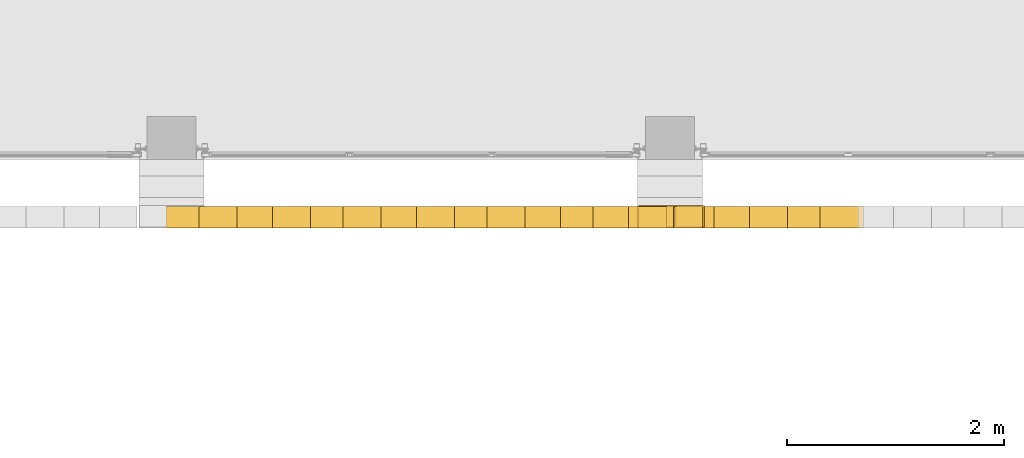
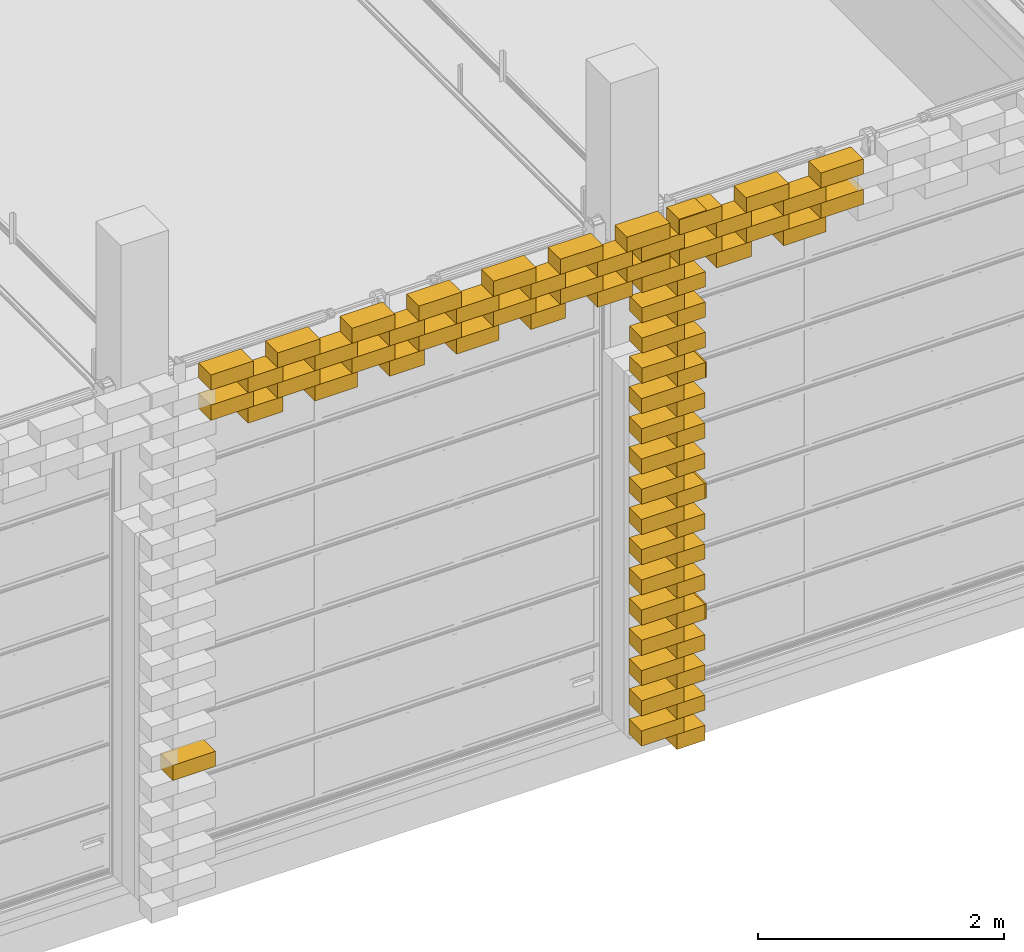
# One storey, part 53 of 62: 74 railings.
"""IFC2X3 building model written with IfcOpenShell, lengths in millimetres."""

from ifc_helpers import new_model, entity, si_unit, converted_unit, derived_unit, money_unit, direction, frame, origin_with_axes, place, context, subcontext, project, spatial, polyline, outline, extrude, material, type_object, element, save


model = new_model("IFC2X3")

# Units and contexts
model_context = context("Model", 3, precision=0.01, world=origin_with_axes(), true_north=direction((0.0, 1.0)))
body_context = subcontext(model_context, "Body", "Model", "MODEL_VIEW")
ifc_project = project(units=[si_unit("LENGTHUNIT", "METRE", prefix="MILLI"), si_unit("AREAUNIT", "SQUARE_METRE"), si_unit("VOLUMEUNIT", "CUBIC_METRE"), converted_unit("PLANEANGLEUNIT", "DEGREE", entity("IfcPlaneAngleMeasure", 0.0174532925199), si_unit("PLANEANGLEUNIT", "RADIAN"), dimensions=[0, 0, 0, 0, 0, 0, 0]), si_unit("SOLIDANGLEUNIT", "STERADIAN"), money_unit("EUR"), converted_unit("TIMEUNIT", "Year", entity("IfcTimeMeasure", 31556926.0), si_unit("TIMEUNIT", "SECOND"), dimensions=[0, 0, 1, 0, 0, 0, 0]), si_unit("MASSUNIT", "GRAM", prefix="KILO"), si_unit("THERMODYNAMICTEMPERATUREUNIT", "DEGREE_CELSIUS"), si_unit("LUMINOUSINTENSITYUNIT", "LUMEN"), si_unit("ENERGYUNIT", "JOULE", prefix="MEGA"), derived_unit("THERMALCONDUCTANCEUNIT", [(si_unit("POWERUNIT", "WATT"), 1), (si_unit("LENGTHUNIT", "METRE"), -1), (si_unit("THERMODYNAMICTEMPERATUREUNIT", "KELVIN"), -1)]), derived_unit("SPECIFICHEATCAPACITYUNIT", [(si_unit("ENERGYUNIT", "JOULE"), 1), (si_unit("MASSUNIT", "GRAM", prefix="KILO"), -1), (si_unit("THERMODYNAMICTEMPERATUREUNIT", "KELVIN"), -1)]), derived_unit("MASSDENSITYUNIT", [(si_unit("MASSUNIT", "GRAM", prefix="KILO"), 1), (si_unit("VOLUMEUNIT", "CUBIC_METRE"), -1)])], contexts=[model_context])

# Site, building, storey
site_placement = place(None, origin_with_axes())
site = spatial("IfcSite", under=ifc_project, at=site_placement, Name="KIRDE 14, ELVA", CompositionType="ELEMENT")
building_placement = place(site_placement, origin_with_axes())
building = spatial("IfcBuilding", under=site, at=building_placement, Name="PPA ja Päästeameti ühishoone", CompositionType="ELEMENT")
storey_placement = place(building_placement, origin_with_axes())
storey = spatial("IfcBuildingStorey", under=building, at=storey_placement, Name="Esimene korrus", CompositionType="ELEMENT", Elevation=0.0)

# Railings
ifc_material = material(Name="Air Space")
railing_type = type_object("IfcRailingType", Name="Air Space 200", PredefinedType="NOTDEFINED")
for number, where, z_axis, x_axis in (
    (1, (24233.5902005, -431.000102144, 500.0), (0.0, 0.0, 1.0), (1.0, -3.55466631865e-09, 0.0)),
    (2, (24233.5902005, -431.000102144, 800.0), (0.0, 0.0, 1.0), (1.0, -3.55466631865e-09, 0.0)),
):
    element("IfcRailing", number, at=place(storey_placement, frame(where, z_axis=z_axis, x_axis=x_axis)), inside=storey, type_object=railing_type, material=ifc_material, Name="plokk", PredefinedType="NOTDEFINED", context=body_context, shape_type="SweptSolid", body=[
        extrude(outline(polyline([(0.0, -200.0), (261.999999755, -200.0), (261.999999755, 0.0), (0.0, 0.0), (0.0, -200.0)])), origin_with_axes(), (0.0, 0.0, 1.0), 150.0),
    ])
railing_1_placement = place(storey_placement, frame((24250.1727361, -431.000103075, 1100.0), z_axis=(0.0, 0.0, 1.0), x_axis=(1.0, 3.55466631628e-09, 0.0)))
element("IfcRailing", 3, at=railing_1_placement, inside=storey, type_object=railing_type, material=ifc_material, Name="plokk", PredefinedType="NOTDEFINED", context=body_context, shape_type="SweptSolid", body=[
    extrude(outline(polyline([(0.0, -200.0), (261.99999993, -200.0), (261.99999993, 0.0), (0.0, 0.0), (0.0, -200.0)])), origin_with_axes(), (0.0, 0.0, 1.0), 150.0),
])
for number, where, z_axis, x_axis in (
    (4, (24233.5902005, -431.000102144, 2300.0), (0.0, 0.0, 1.0), (1.0, -3.55466631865e-09, 0.0)),
    (5, (24233.5902005, -431.000102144, 2600.0), (0.0, 0.0, 1.0), (1.0, -3.55466631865e-09, 0.0)),
    (6, (24233.5902005, -431.000102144, 2900.0), (0.0, 0.0, 1.0), (1.0, -3.55466631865e-09, 0.0)),
):
    element("IfcRailing", number, at=place(storey_placement, frame(where, z_axis=z_axis, x_axis=x_axis)), inside=storey, type_object=railing_type, material=ifc_material, Name="plokk", PredefinedType="NOTDEFINED", context=body_context, shape_type="SweptSolid", body=[
        extrude(outline(polyline([(0.0, -200.0), (261.999999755, -200.0), (261.999999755, 0.0), (0.0, 0.0), (0.0, -200.0)])), origin_with_axes(), (0.0, 0.0, 1.0), 150.0),
    ])
railing_2_placement = place(storey_placement, frame((21811.1208059, -431.000097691, 5000.0), z_axis=(0.0, 0.0, 1.0), x_axis=(1.0, -2.32830643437e-09, 0.0)))
element("IfcRailing", 7, at=railing_2_placement, inside=storey, type_object=railing_type, material=ifc_material, Name="plokk", PredefinedType="NOTDEFINED", context=body_context, shape_type="SweptSolid", body=[
    extrude(outline(polyline([(0.0, -200.0), (400.000000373, -200.0), (400.000000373, 0.0), (0.0, 0.0), (0.0, -200.0)])), origin_with_axes(), (0.0, 0.0, 1.0), 150.0),
])
railing_3_placement = place(storey_placement, frame((20206.7115344, -431.000101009, 4850.0), z_axis=(0.0, 0.0, 1.0), x_axis=(1.0, 0.0, 0.0)))
element("IfcRailing", 8, at=railing_3_placement, inside=storey, type_object=railing_type, material=ifc_material, Name="plokk", PredefinedType="NOTDEFINED", context=body_context, shape_type="SweptSolid", body=[
    extrude(outline(polyline([(0.0, -200.0), (327.204635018, -200.0), (327.204635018, 0.0), (0.0, 0.0), (0.0, -200.0)])), origin_with_axes(), (0.0, 0.0, 1.0), 150.0),
])
railing_4_placement = place(storey_placement, frame((21183.9161709, -431.000099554, 4700.0), z_axis=(0.0, 0.0, 1.0), x_axis=(1.0, -2.32830643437e-09, 0.0)))
element("IfcRailing", 9, at=railing_4_placement, inside=storey, type_object=railing_type, material=ifc_material, Name="plokk", PredefinedType="NOTDEFINED", context=body_context, shape_type="SweptSolid", body=[
    extrude(outline(polyline([(0.0, -200.0), (400.000000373, -200.0), (400.000000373, 0.0), (0.0, 0.0), (0.0, -200.0)])), origin_with_axes(), (0.0, 0.0, 1.0), 150.0),
])
railing_5_placement = place(storey_placement, frame((20833.9161714, -431.000101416, 4550.0), z_axis=(0.0, 0.0, 1.0), x_axis=(1.0, -2.32830643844e-09, 0.0)))
element("IfcRailing", 10, at=railing_5_placement, inside=storey, type_object=railing_type, material=ifc_material, Name="plokk", PredefinedType="NOTDEFINED", context=body_context, shape_type="SweptSolid", body=[
    extrude(outline(polyline([(0.0, -200.0), (399.999999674, -200.0), (399.999999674, 0.0), (0.0, 0.0), (0.0, -200.0)])), origin_with_axes(), (0.0, 0.0, 1.0), 150.0),
])
railing_6_placement = place(storey_placement, frame((20483.9161697, -431.000098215, 5000.0), z_axis=(0.0, 0.0, 1.0), x_axis=(1.0, -2.32830643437e-09, 0.0)))
element("IfcRailing", 11, at=railing_6_placement, inside=storey, type_object=railing_type, material=ifc_material, Name="plokk", PredefinedType="NOTDEFINED", context=body_context, shape_type="SweptSolid", body=[
    extrude(outline(polyline([(0.0, -200.0), (400.000000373, -200.0), (400.000000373, 0.0), (0.0, 0.0), (0.0, -200.0)])), origin_with_axes(), (0.0, 0.0, 1.0), 150.0),
])
railing_7_placement = place(storey_placement, frame((20833.9161714, -431.000101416, 4850.0), z_axis=(0.0, 0.0, 1.0), x_axis=(1.0, -2.32830643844e-09, 0.0)))
element("IfcRailing", 12, at=railing_7_placement, inside=storey, type_object=railing_type, material=ifc_material, Name="plokk", PredefinedType="NOTDEFINED", context=body_context, shape_type="SweptSolid", body=[
    extrude(outline(polyline([(0.0, -200.0), (399.999999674, -200.0), (399.999999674, 0.0), (0.0, 0.0), (0.0, -200.0)])), origin_with_axes(), (0.0, 0.0, 1.0), 150.0),
])
railing_8_placement = place(storey_placement, frame((21183.9161709, -431.000099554, 5000.0), z_axis=(0.0, 0.0, 1.0), x_axis=(1.0, -2.32830643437e-09, 0.0)))
element("IfcRailing", 13, at=railing_8_placement, inside=storey, type_object=railing_type, material=ifc_material, Name="plokk", PredefinedType="NOTDEFINED", context=body_context, shape_type="SweptSolid", body=[
    extrude(outline(polyline([(0.0, -200.0), (400.000000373, -200.0), (400.000000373, 0.0), (0.0, 0.0), (0.0, -200.0)])), origin_with_axes(), (0.0, 0.0, 1.0), 150.0),
])
railing_9_placement = place(storey_placement, frame((21533.9161706, -431.000100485, 4550.0), z_axis=(0.0, 0.0, 1.0), x_axis=(1.0, 0.0, 0.0)))
element("IfcRailing", 14, at=railing_9_placement, inside=storey, type_object=railing_type, material=ifc_material, Name="plokk", PredefinedType="NOTDEFINED", context=body_context, shape_type="SweptSolid", body=[
    extrude(outline(polyline([(0.0, -200.0), (327.204635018, -200.0), (327.204635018, 0.0), (0.0, 0.0), (0.0, -200.0)])), origin_with_axes(), (0.0, 0.0, 1.0), 150.0),
])
for number, where, z_axis, x_axis in (
    (15, (21811.1208059, -431.000097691, 4700.0), (0.0, 0.0, 1.0), (1.0, -2.32830643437e-09, 0.0)),
    (16, (19856.7115346, -431.000100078, 5000.0), (0.0, 0.0, 1.0), (1.0, -2.32830643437e-09, 0.0)),
):
    element("IfcRailing", number, at=place(storey_placement, frame(where, z_axis=z_axis, x_axis=x_axis)), inside=storey, type_object=railing_type, material=ifc_material, Name="plokk", PredefinedType="NOTDEFINED", context=body_context, shape_type="SweptSolid", body=[
        extrude(outline(polyline([(0.0, -200.0), (400.000000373, -200.0), (400.000000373, 0.0), (0.0, 0.0), (0.0, -200.0)])), origin_with_axes(), (0.0, 0.0, 1.0), 150.0),
    ])
railing_10_placement = place(storey_placement, frame((21533.9161706, -431.000100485, 4850.0), z_axis=(0.0, 0.0, 1.0), x_axis=(1.0, 0.0, 0.0)))
element("IfcRailing", 17, at=railing_10_placement, inside=storey, type_object=railing_type, material=ifc_material, Name="plokk", PredefinedType="NOTDEFINED", context=body_context, shape_type="SweptSolid", body=[
    extrude(outline(polyline([(0.0, -200.0), (327.204635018, -200.0), (327.204635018, 0.0), (0.0, 0.0), (0.0, -200.0)])), origin_with_axes(), (0.0, 0.0, 1.0), 150.0),
])
railing_11_placement = place(storey_placement, frame((24237.1900145, -431.000102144, 3500.0), z_axis=(0.0, 0.0, 1.0), x_axis=(1.0, -3.55466631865e-09, 0.0)))
element("IfcRailing", 18, at=railing_11_placement, inside=storey, type_object=railing_type, material=ifc_material, Name="plokk", PredefinedType="NOTDEFINED", context=body_context, shape_type="SweptSolid", body=[
    extrude(outline(polyline([(0.0, -200.0), (261.999999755, -200.0), (261.999999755, 0.0), (0.0, 0.0), (0.0, -200.0)])), origin_with_axes(), (0.0, 0.0, 1.0), 150.0),
])
for number, where, z_axis, x_axis in (
    (19, (23903.7725501, -431.000102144, 3650.0), (0.0, 0.0, 1.0), (1.0, 2.32830643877e-09, 0.0)),
    (20, (23903.7725501, -431.000102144, 3950.0), (0.0, 0.0, 1.0), (1.0, 2.32830643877e-09, 0.0)),
):
    element("IfcRailing", number, at=place(storey_placement, frame(where, z_axis=z_axis, x_axis=x_axis)), inside=storey, type_object=railing_type, material=ifc_material, Name="plokk", PredefinedType="NOTDEFINED", context=body_context, shape_type="SweptSolid", body=[
        extrude(outline(polyline([(0.0, -200.0), (399.999999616, -200.0), (399.999999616, 0.0), (0.0, 0.0), (0.0, -200.0)])), origin_with_axes(), (0.0, 0.0, 1.0), 150.0),
    ])
for number, where, z_axis, x_axis in (
    (21, (24237.1900145, -431.000102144, 3800.0), (0.0, 0.0, 1.0), (1.0, -3.55466631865e-09, 0.0)),
    (22, (24237.1900145, -431.000102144, 4100.0), (0.0, 0.0, 1.0), (1.0, -3.55466631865e-09, 0.0)),
):
    element("IfcRailing", number, at=place(storey_placement, frame(where, z_axis=z_axis, x_axis=x_axis)), inside=storey, type_object=railing_type, material=ifc_material, Name="plokk", PredefinedType="NOTDEFINED", context=body_context, shape_type="SweptSolid", body=[
        extrude(outline(polyline([(0.0, -200.0), (261.999999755, -200.0), (261.999999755, 0.0), (0.0, 0.0), (0.0, -200.0)])), origin_with_axes(), (0.0, 0.0, 1.0), 150.0),
    ])
railing_12_placement = place(storey_placement, frame((23903.7725501, -431.000102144, 4250.0), z_axis=(0.0, 0.0, 1.0), x_axis=(1.0, 2.32830643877e-09, 0.0)))
element("IfcRailing", 23, at=railing_12_placement, inside=storey, type_object=railing_type, material=ifc_material, Name="plokk", PredefinedType="NOTDEFINED", context=body_context, shape_type="SweptSolid", body=[
    extrude(outline(polyline([(0.0, -200.0), (399.999999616, -200.0), (399.999999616, 0.0), (0.0, 0.0), (0.0, -200.0)])), origin_with_axes(), (0.0, 0.0, 1.0), 150.0),
])
railing_13_placement = place(storey_placement, frame((24237.1900145, -431.000102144, 4400.0), z_axis=(0.0, 0.0, 1.0), x_axis=(1.0, -3.55466631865e-09, 0.0)))
element("IfcRailing", 24, at=railing_13_placement, inside=storey, type_object=railing_type, material=ifc_material, Name="plokk", PredefinedType="NOTDEFINED", context=body_context, shape_type="SweptSolid", body=[
    extrude(outline(polyline([(0.0, -200.0), (261.999999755, -200.0), (261.999999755, 0.0), (0.0, 0.0), (0.0, -200.0)])), origin_with_axes(), (0.0, 0.0, 1.0), 150.0),
])
railing_14_placement = place(storey_placement, frame((23903.7725501, -431.000102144, 4550.0), z_axis=(0.0, 0.0, 1.0), x_axis=(1.0, 2.32830643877e-09, 0.0)))
element("IfcRailing", 25, at=railing_14_placement, inside=storey, type_object=railing_type, material=ifc_material, Name="plokk", PredefinedType="NOTDEFINED", context=body_context, shape_type="SweptSolid", body=[
    extrude(outline(polyline([(0.0, -200.0), (399.999999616, -200.0), (399.999999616, 0.0), (0.0, 0.0), (0.0, -200.0)])), origin_with_axes(), (0.0, 0.0, 1.0), 150.0),
])
railing_15_placement = place(storey_placement, frame((24256.7115354, -431.000098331, 4700.0), z_axis=(0.0, 0.0, 1.0), x_axis=(1.0, -2.32830643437e-09, 0.0)))
element("IfcRailing", 26, at=railing_15_placement, inside=storey, type_object=railing_type, material=ifc_material, Name="plokk", PredefinedType="NOTDEFINED", context=body_context, shape_type="SweptSolid", body=[
    extrude(outline(polyline([(0.0, -200.0), (400.000000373, -200.0), (400.000000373, 0.0), (0.0, 0.0), (0.0, -200.0)])), origin_with_axes(), (0.0, 0.0, 1.0), 150.0),
])
railing_16_placement = place(storey_placement, frame((24256.7115342, -422.760601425, 5000.0), z_axis=(0.0, 0.0, 1.0), x_axis=(1.0, 3.55466631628e-09, 0.0)))
element("IfcRailing", 27, at=railing_16_placement, inside=storey, type_object=railing_type, material=ifc_material, Name="plokk", PredefinedType="NOTDEFINED", context=body_context, shape_type="SweptSolid", body=[
    extrude(outline(polyline([(0.0, -200.0), (261.99999993, -200.0), (261.99999993, 0.0), (0.0, 0.0), (0.0, -200.0)])), origin_with_axes(), (0.0, 0.0, 1.0), 150.0),
])
railing_17_placement = place(storey_placement, frame((23906.7115342, -422.760600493, 4850.0), z_axis=(0.0, 0.0, 1.0), x_axis=(1.0, 2.32830643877e-09, 0.0)))
element("IfcRailing", 28, at=railing_17_placement, inside=storey, type_object=railing_type, material=ifc_material, Name="plokk", PredefinedType="NOTDEFINED", context=body_context, shape_type="SweptSolid", body=[
    extrude(outline(polyline([(0.0, -200.0), (399.999999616, -200.0), (399.999999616, 0.0), (0.0, 0.0), (0.0, -200.0)])), origin_with_axes(), (0.0, 0.0, 1.0), 150.0),
])
railing_18_placement = place(storey_placement, frame((25583.9161717, -431.000097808, 5000.0), z_axis=(0.0, 0.0, 1.0), x_axis=(1.0, -2.32830643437e-09, 0.0)))
element("IfcRailing", 29, at=railing_18_placement, inside=storey, type_object=railing_type, material=ifc_material, Name="plokk", PredefinedType="NOTDEFINED", context=body_context, shape_type="SweptSolid", body=[
    extrude(outline(polyline([(0.0, -200.0), (400.000000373, -200.0), (400.000000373, 0.0), (0.0, 0.0), (0.0, -200.0)])), origin_with_axes(), (0.0, 0.0, 1.0), 150.0),
])
railing_19_placement = place(storey_placement, frame((23900.172736, -431.000102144, 2750.0), z_axis=(0.0, 0.0, 1.0), x_axis=(1.0, 2.32830643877e-09, 0.0)))
element("IfcRailing", 30, at=railing_19_placement, inside=storey, type_object=railing_type, material=ifc_material, Name="plokk", PredefinedType="NOTDEFINED", context=body_context, shape_type="SweptSolid", body=[
    extrude(outline(polyline([(0.0, -200.0), (399.999999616, -200.0), (399.999999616, 0.0), (0.0, 0.0), (0.0, -200.0)])), origin_with_axes(), (0.0, 0.0, 1.0), 150.0),
])
railing_20_placement = place(storey_placement, frame((25233.9161722, -431.00009967, 4850.0), z_axis=(0.0, 0.0, 1.0), x_axis=(1.0, -2.32830643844e-09, 0.0)))
element("IfcRailing", 31, at=railing_20_placement, inside=storey, type_object=railing_type, material=ifc_material, Name="plokk", PredefinedType="NOTDEFINED", context=body_context, shape_type="SweptSolid", body=[
    extrude(outline(polyline([(0.0, -200.0), (399.999999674, -200.0), (399.999999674, 0.0), (0.0, 0.0), (0.0, -200.0)])), origin_with_axes(), (0.0, 0.0, 1.0), 150.0),
])
railing_21_placement = place(storey_placement, frame((23900.172736, -431.000102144, 3050.0), z_axis=(0.0, 0.0, 1.0), x_axis=(1.0, 2.32830643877e-09, 0.0)))
element("IfcRailing", 32, at=railing_21_placement, inside=storey, type_object=railing_type, material=ifc_material, Name="plokk", PredefinedType="NOTDEFINED", context=body_context, shape_type="SweptSolid", body=[
    extrude(outline(polyline([(0.0, -200.0), (399.999999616, -200.0), (399.999999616, 0.0), (0.0, 0.0), (0.0, -200.0)])), origin_with_axes(), (0.0, 0.0, 1.0), 150.0),
])
railing_22_placement = place(storey_placement, frame((24233.5902005, -431.000102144, 3200.0), z_axis=(0.0, 0.0, 1.0), x_axis=(1.0, -3.55466631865e-09, 0.0)))
element("IfcRailing", 33, at=railing_22_placement, inside=storey, type_object=railing_type, material=ifc_material, Name="plokk", PredefinedType="NOTDEFINED", context=body_context, shape_type="SweptSolid", body=[
    extrude(outline(polyline([(0.0, -200.0), (261.999999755, -200.0), (261.999999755, 0.0), (0.0, 0.0), (0.0, -200.0)])), origin_with_axes(), (0.0, 0.0, 1.0), 150.0),
])
for number, where, z_axis, x_axis in (
    (34, (23900.172736, -431.000102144, 950.0), (0.0, 0.0, 1.0), (1.0, 2.32830643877e-09, 0.0)),
    (35, (23900.172736, -431.000102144, 650.0), (0.0, 0.0, 1.0), (1.0, 2.32830643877e-09, 0.0)),
    (36, (23900.172736, -431.000102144, 1850.0), (0.0, 0.0, 1.0), (1.0, 2.32830643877e-09, 0.0)),
):
    element("IfcRailing", number, at=place(storey_placement, frame(where, z_axis=z_axis, x_axis=x_axis)), inside=storey, type_object=railing_type, material=ifc_material, Name="plokk", PredefinedType="NOTDEFINED", context=body_context, shape_type="SweptSolid", body=[
        extrude(outline(polyline([(0.0, -200.0), (399.999999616, -200.0), (399.999999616, 0.0), (0.0, 0.0), (0.0, -200.0)])), origin_with_axes(), (0.0, 0.0, 1.0), 150.0),
    ])
railing_23_placement = place(storey_placement, frame((24233.5902005, -431.000102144, 2000.0), z_axis=(0.0, 0.0, 1.0), x_axis=(1.0, -3.55466631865e-09, 0.0)))
element("IfcRailing", 37, at=railing_23_placement, inside=storey, type_object=railing_type, material=ifc_material, Name="plokk", PredefinedType="NOTDEFINED", context=body_context, shape_type="SweptSolid", body=[
    extrude(outline(polyline([(0.0, -200.0), (261.999999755, -200.0), (261.999999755, 0.0), (0.0, 0.0), (0.0, -200.0)])), origin_with_axes(), (0.0, 0.0, 1.0), 150.0),
])
railing_24_placement = place(storey_placement, frame((24250.1727361, -431.000103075, 2300.0), z_axis=(0.0, 0.0, 1.0), x_axis=(1.0, 3.55466631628e-09, 0.0)))
element("IfcRailing", 38, at=railing_24_placement, inside=storey, type_object=railing_type, material=ifc_material, Name="plokk", PredefinedType="NOTDEFINED", context=body_context, shape_type="SweptSolid", body=[
    extrude(outline(polyline([(0.0, -200.0), (261.99999993, -200.0), (261.99999993, 0.0), (0.0, 0.0), (0.0, -200.0)])), origin_with_axes(), (0.0, 0.0, 1.0), 150.0),
])
for number, where, z_axis, x_axis in (
    (39, (23900.172736, -431.000102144, 2150.0), (0.0, 0.0, 1.0), (1.0, 2.32830643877e-09, 0.0)),
    (40, (23900.172736, -431.000102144, 2450.0), (0.0, 0.0, 1.0), (1.0, 2.32830643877e-09, 0.0)),
    (41, (23900.172736, -431.000102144, 350.0), (0.0, 0.0, 1.0), (1.0, 2.32830643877e-09, 0.0)),
):
    element("IfcRailing", number, at=place(storey_placement, frame(where, z_axis=z_axis, x_axis=x_axis)), inside=storey, type_object=railing_type, material=ifc_material, Name="plokk", PredefinedType="NOTDEFINED", context=body_context, shape_type="SweptSolid", body=[
        extrude(outline(polyline([(0.0, -200.0), (399.999999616, -200.0), (399.999999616, 0.0), (0.0, 0.0), (0.0, -200.0)])), origin_with_axes(), (0.0, 0.0, 1.0), 150.0),
    ])
railing_25_placement = place(storey_placement, frame((24233.5902005, -431.000102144, 200.0), z_axis=(0.0, 0.0, 1.0), x_axis=(1.0, -3.55466631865e-09, 0.0)))
element("IfcRailing", 42, at=railing_25_placement, inside=storey, type_object=railing_type, material=ifc_material, Name="plokk", PredefinedType="NOTDEFINED", context=body_context, shape_type="SweptSolid", body=[
    extrude(outline(polyline([(0.0, -200.0), (261.999999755, -200.0), (261.999999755, 0.0), (0.0, 0.0), (0.0, -200.0)])), origin_with_axes(), (0.0, 0.0, 1.0), 150.0),
])
railing_26_placement = place(storey_placement, frame((23900.172736, -431.000102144, 50.0), z_axis=(0.0, 0.0, 1.0), x_axis=(1.0, 2.32830643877e-09, 0.0)))
element("IfcRailing", 43, at=railing_26_placement, inside=storey, type_object=railing_type, material=ifc_material, Name="plokk", PredefinedType="NOTDEFINED", context=body_context, shape_type="SweptSolid", body=[
    extrude(outline(polyline([(0.0, -200.0), (399.999999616, -200.0), (399.999999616, 0.0), (0.0, 0.0), (0.0, -200.0)])), origin_with_axes(), (0.0, 0.0, 1.0), 150.0),
])
railing_27_placement = place(storey_placement, frame((24233.5902005, -431.000102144, -100.0), z_axis=(0.0, 0.0, 1.0), x_axis=(1.0, -3.55466631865e-09, 0.0)))
element("IfcRailing", 44, at=railing_27_placement, inside=storey, type_object=railing_type, material=ifc_material, Name="plokk", PredefinedType="NOTDEFINED", context=body_context, shape_type="SweptSolid", body=[
    extrude(outline(polyline([(0.0, -200.0), (261.999999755, -200.0), (261.999999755, 0.0), (0.0, 0.0), (0.0, -200.0)])), origin_with_axes(), (0.0, 0.0, 1.0), 150.0),
])
for number, where, z_axis, x_axis in (
    (45, (23900.172736, -431.000102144, 3350.0), (0.0, 0.0, 1.0), (1.0, 2.32830643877e-09, 0.0)),
    (46, (23900.172736, -431.000102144, 1550.0), (0.0, 0.0, 1.0), (1.0, 2.32830643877e-09, 0.0)),
    (47, (23900.172736, -431.000102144, 1250.0), (0.0, 0.0, 1.0), (1.0, 2.32830643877e-09, 0.0)),
):
    element("IfcRailing", number, at=place(storey_placement, frame(where, z_axis=z_axis, x_axis=x_axis)), inside=storey, type_object=railing_type, material=ifc_material, Name="plokk", PredefinedType="NOTDEFINED", context=body_context, shape_type="SweptSolid", body=[
        extrude(outline(polyline([(0.0, -200.0), (399.999999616, -200.0), (399.999999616, 0.0), (0.0, 0.0), (0.0, -200.0)])), origin_with_axes(), (0.0, 0.0, 1.0), 150.0),
    ])
for number, where, z_axis, x_axis in (
    (48, (24233.5902005, -431.000102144, 1700.0), (0.0, 0.0, 1.0), (1.0, -3.55466631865e-09, 0.0)),
    (49, (24233.5902005, -431.000102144, 1400.0), (0.0, 0.0, 1.0), (1.0, -3.55466631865e-09, 0.0)),
    (50, (24233.5902005, -431.000102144, 1100.0), (0.0, 0.0, 1.0), (1.0, -3.55466631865e-09, 0.0)),
):
    element("IfcRailing", number, at=place(storey_placement, frame(where, z_axis=z_axis, x_axis=x_axis)), inside=storey, type_object=railing_type, material=ifc_material, Name="plokk", PredefinedType="NOTDEFINED", context=body_context, shape_type="SweptSolid", body=[
        extrude(outline(polyline([(0.0, -200.0), (261.999999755, -200.0), (261.999999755, 0.0), (0.0, 0.0), (0.0, -200.0)])), origin_with_axes(), (0.0, 0.0, 1.0), 150.0),
    ])
railing_28_placement = place(storey_placement, frame((19500.1727354, -431.000104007, 1250.0), z_axis=(0.0, 0.0, 1.0), x_axis=(1.0, 0.0, 0.0)))
element("IfcRailing", 51, at=railing_28_placement, inside=storey, type_object=railing_type, material=ifc_material, Name="plokk", PredefinedType="NOTDEFINED", context=body_context, shape_type="SweptSolid", body=[
    extrude(outline(polyline([(0.0, -200.0), (400.00000078, -200.0), (400.00000078, 0.0), (0.0, 0.0), (0.0, -200.0)])), origin_with_axes(), (0.0, 0.0, 1.0), 150.0),
])
railing_29_placement = place(storey_placement, frame((24250.1727361, -431.000103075, 3500.0), z_axis=(0.0, 0.0, 1.0), x_axis=(1.0, 3.55466631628e-09, 0.0)))
element("IfcRailing", 52, at=railing_29_placement, inside=storey, type_object=railing_type, material=ifc_material, Name="plokk", PredefinedType="NOTDEFINED", context=body_context, shape_type="SweptSolid", body=[
    extrude(outline(polyline([(0.0, -200.0), (261.99999993, -200.0), (261.99999993, 0.0), (0.0, 0.0), (0.0, -200.0)])), origin_with_axes(), (0.0, 0.0, 1.0), 150.0),
])
railing_30_placement = place(storey_placement, frame((25583.9161717, -431.000097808, 4700.0), z_axis=(0.0, 0.0, 1.0), x_axis=(1.0, -2.32830643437e-09, 0.0)))
element("IfcRailing", 53, at=railing_30_placement, inside=storey, type_object=railing_type, material=ifc_material, Name="plokk", PredefinedType="NOTDEFINED", context=body_context, shape_type="SweptSolid", body=[
    extrude(outline(polyline([(0.0, -200.0), (400.000000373, -200.0), (400.000000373, 0.0), (0.0, 0.0), (0.0, -200.0)])), origin_with_axes(), (0.0, 0.0, 1.0), 150.0),
])
railing_31_placement = place(storey_placement, frame((25233.9161722, -431.00009967, 4550.0), z_axis=(0.0, 0.0, 1.0), x_axis=(1.0, -2.32830643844e-09, 0.0)))
element("IfcRailing", 54, at=railing_31_placement, inside=storey, type_object=railing_type, material=ifc_material, Name="plokk", PredefinedType="NOTDEFINED", context=body_context, shape_type="SweptSolid", body=[
    extrude(outline(polyline([(0.0, -200.0), (399.999999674, -200.0), (399.999999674, 0.0), (0.0, 0.0), (0.0, -200.0)])), origin_with_axes(), (0.0, 0.0, 1.0), 150.0),
])
railing_32_placement = place(storey_placement, frame((24883.9161705, -431.000096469, 5000.0), z_axis=(0.0, 0.0, 1.0), x_axis=(1.0, -2.32830643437e-09, 0.0)))
element("IfcRailing", 55, at=railing_32_placement, inside=storey, type_object=railing_type, material=ifc_material, Name="plokk", PredefinedType="NOTDEFINED", context=body_context, shape_type="SweptSolid", body=[
    extrude(outline(polyline([(0.0, -200.0), (400.000000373, -200.0), (400.000000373, 0.0), (0.0, 0.0), (0.0, -200.0)])), origin_with_axes(), (0.0, 0.0, 1.0), 150.0),
])
railing_33_placement = place(storey_placement, frame((24606.7115352, -431.000099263, 4850.0), z_axis=(0.0, 0.0, 1.0), x_axis=(1.0, 0.0, 0.0)))
element("IfcRailing", 56, at=railing_33_placement, inside=storey, type_object=railing_type, material=ifc_material, Name="plokk", PredefinedType="NOTDEFINED", context=body_context, shape_type="SweptSolid", body=[
    extrude(outline(polyline([(0.0, -200.0), (327.204635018, -200.0), (327.204635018, 0.0), (0.0, 0.0), (0.0, -200.0)])), origin_with_axes(), (0.0, 0.0, 1.0), 150.0),
])
railing_34_placement = place(storey_placement, frame((24883.9161705, -431.000096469, 4700.0), z_axis=(0.0, 0.0, 1.0), x_axis=(1.0, -2.32830643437e-09, 0.0)))
element("IfcRailing", 57, at=railing_34_placement, inside=storey, type_object=railing_type, material=ifc_material, Name="plokk", PredefinedType="NOTDEFINED", context=body_context, shape_type="SweptSolid", body=[
    extrude(outline(polyline([(0.0, -200.0), (400.000000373, -200.0), (400.000000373, 0.0), (0.0, 0.0), (0.0, -200.0)])), origin_with_axes(), (0.0, 0.0, 1.0), 150.0),
])
railing_35_placement = place(storey_placement, frame((24606.7115352, -431.000099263, 4550.0), z_axis=(0.0, 0.0, 1.0), x_axis=(1.0, 0.0, 0.0)))
element("IfcRailing", 58, at=railing_35_placement, inside=storey, type_object=railing_type, material=ifc_material, Name="plokk", PredefinedType="NOTDEFINED", context=body_context, shape_type="SweptSolid", body=[
    extrude(outline(polyline([(0.0, -200.0), (327.204635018, -200.0), (327.204635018, 0.0), (0.0, 0.0), (0.0, -200.0)])), origin_with_axes(), (0.0, 0.0, 1.0), 150.0),
])
railing_36_placement = place(storey_placement, frame((23138.3254422, -431.000097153, 5000.0), z_axis=(0.0, 0.0, 1.0), x_axis=(1.0, -2.32830643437e-09, 0.0)))
element("IfcRailing", 59, at=railing_36_placement, inside=storey, type_object=railing_type, material=ifc_material, Name="plokk", PredefinedType="NOTDEFINED", context=body_context, shape_type="SweptSolid", body=[
    extrude(outline(polyline([(0.0, -200.0), (400.000000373, -200.0), (400.000000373, 0.0), (0.0, 0.0), (0.0, -200.0)])), origin_with_axes(), (0.0, 0.0, 1.0), 150.0),
])
railing_37_placement = place(storey_placement, frame((22861.1208069, -431.000099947, 4850.0), z_axis=(0.0, 0.0, 1.0), x_axis=(1.0, 0.0, 0.0)))
element("IfcRailing", 60, at=railing_37_placement, inside=storey, type_object=railing_type, material=ifc_material, Name="plokk", PredefinedType="NOTDEFINED", context=body_context, shape_type="SweptSolid", body=[
    extrude(outline(polyline([(0.0, -200.0), (327.204635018, -200.0), (327.204635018, 0.0), (0.0, 0.0), (0.0, -200.0)])), origin_with_axes(), (0.0, 0.0, 1.0), 150.0),
])
railing_38_placement = place(storey_placement, frame((22511.1208071, -431.000099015, 5000.0), z_axis=(0.0, 0.0, 1.0), x_axis=(1.0, -2.32830643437e-09, 0.0)))
element("IfcRailing", 61, at=railing_38_placement, inside=storey, type_object=railing_type, material=ifc_material, Name="plokk", PredefinedType="NOTDEFINED", context=body_context, shape_type="SweptSolid", body=[
    extrude(outline(polyline([(0.0, -200.0), (400.000000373, -200.0), (400.000000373, 0.0), (0.0, 0.0), (0.0, -200.0)])), origin_with_axes(), (0.0, 0.0, 1.0), 150.0),
])
railing_39_placement = place(storey_placement, frame((22161.1208076, -431.000100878, 4850.0), z_axis=(0.0, 0.0, 1.0), x_axis=(1.0, -2.32830643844e-09, 0.0)))
element("IfcRailing", 62, at=railing_39_placement, inside=storey, type_object=railing_type, material=ifc_material, Name="plokk", PredefinedType="NOTDEFINED", context=body_context, shape_type="SweptSolid", body=[
    extrude(outline(polyline([(0.0, -200.0), (399.999999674, -200.0), (399.999999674, 0.0), (0.0, 0.0), (0.0, -200.0)])), origin_with_axes(), (0.0, 0.0, 1.0), 150.0),
])
railing_40_placement = place(storey_placement, frame((23138.3254422, -431.000097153, 4700.0), z_axis=(0.0, 0.0, 1.0), x_axis=(1.0, -2.32830643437e-09, 0.0)))
element("IfcRailing", 63, at=railing_40_placement, inside=storey, type_object=railing_type, material=ifc_material, Name="plokk", PredefinedType="NOTDEFINED", context=body_context, shape_type="SweptSolid", body=[
    extrude(outline(polyline([(0.0, -200.0), (400.000000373, -200.0), (400.000000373, 0.0), (0.0, 0.0), (0.0, -200.0)])), origin_with_axes(), (0.0, 0.0, 1.0), 150.0),
])
railing_41_placement = place(storey_placement, frame((22861.1208069, -431.000099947, 4550.0), z_axis=(0.0, 0.0, 1.0), x_axis=(1.0, 0.0, 0.0)))
element("IfcRailing", 64, at=railing_41_placement, inside=storey, type_object=railing_type, material=ifc_material, Name="plokk", PredefinedType="NOTDEFINED", context=body_context, shape_type="SweptSolid", body=[
    extrude(outline(polyline([(0.0, -200.0), (327.204635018, -200.0), (327.204635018, 0.0), (0.0, 0.0), (0.0, -200.0)])), origin_with_axes(), (0.0, 0.0, 1.0), 150.0),
])
railing_42_placement = place(storey_placement, frame((22511.1208071, -431.000099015, 4700.0), z_axis=(0.0, 0.0, 1.0), x_axis=(1.0, -2.32830643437e-09, 0.0)))
element("IfcRailing", 65, at=railing_42_placement, inside=storey, type_object=railing_type, material=ifc_material, Name="plokk", PredefinedType="NOTDEFINED", context=body_context, shape_type="SweptSolid", body=[
    extrude(outline(polyline([(0.0, -200.0), (400.000000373, -200.0), (400.000000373, 0.0), (0.0, 0.0), (0.0, -200.0)])), origin_with_axes(), (0.0, 0.0, 1.0), 150.0),
])
railing_43_placement = place(storey_placement, frame((22161.1208076, -431.000100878, 4550.0), z_axis=(0.0, 0.0, 1.0), x_axis=(1.0, -2.32830643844e-09, 0.0)))
element("IfcRailing", 66, at=railing_43_placement, inside=storey, type_object=railing_type, material=ifc_material, Name="plokk", PredefinedType="NOTDEFINED", context=body_context, shape_type="SweptSolid", body=[
    extrude(outline(polyline([(0.0, -200.0), (399.999999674, -200.0), (399.999999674, 0.0), (0.0, 0.0), (0.0, -200.0)])), origin_with_axes(), (0.0, 0.0, 1.0), 150.0),
])
railing_44_placement = place(storey_placement, frame((20483.9161697, -431.000098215, 4700.0), z_axis=(0.0, 0.0, 1.0), x_axis=(1.0, -2.32830643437e-09, 0.0)))
element("IfcRailing", 67, at=railing_44_placement, inside=storey, type_object=railing_type, material=ifc_material, Name="plokk", PredefinedType="NOTDEFINED", context=body_context, shape_type="SweptSolid", body=[
    extrude(outline(polyline([(0.0, -200.0), (400.000000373, -200.0), (400.000000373, 0.0), (0.0, 0.0), (0.0, -200.0)])), origin_with_axes(), (0.0, 0.0, 1.0), 150.0),
])
railing_45_placement = place(storey_placement, frame((20206.7115344, -431.000101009, 4550.0), z_axis=(0.0, 0.0, 1.0), x_axis=(1.0, 0.0, 0.0)))
element("IfcRailing", 68, at=railing_45_placement, inside=storey, type_object=railing_type, material=ifc_material, Name="plokk", PredefinedType="NOTDEFINED", context=body_context, shape_type="SweptSolid", body=[
    extrude(outline(polyline([(0.0, -200.0), (327.204635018, -200.0), (327.204635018, 0.0), (0.0, 0.0), (0.0, -200.0)])), origin_with_axes(), (0.0, 0.0, 1.0), 150.0),
])
railing_46_placement = place(storey_placement, frame((19856.7115346, -431.000100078, 4700.0), z_axis=(0.0, 0.0, 1.0), x_axis=(1.0, -2.32830643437e-09, 0.0)))
element("IfcRailing", 69, at=railing_46_placement, inside=storey, type_object=railing_type, material=ifc_material, Name="plokk", PredefinedType="NOTDEFINED", context=body_context, shape_type="SweptSolid", body=[
    extrude(outline(polyline([(0.0, -200.0), (400.000000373, -200.0), (400.000000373, 0.0), (0.0, 0.0), (0.0, -200.0)])), origin_with_axes(), (0.0, 0.0, 1.0), 150.0),
])
railing_47_placement = place(storey_placement, frame((23488.3254419, -431.000099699, 4850.0), z_axis=(0.0, 0.0, 1.0), x_axis=(1.0, 0.0, 0.0)))
element("IfcRailing", 70, at=railing_47_placement, inside=storey, type_object=railing_type, material=ifc_material, Name="plokk", PredefinedType="NOTDEFINED", context=body_context, shape_type="SweptSolid", body=[
    extrude(outline(polyline([(0.0, -200.0), (327.204635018, -200.0), (327.204635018, 0.0), (0.0, 0.0), (0.0, -200.0)])), origin_with_axes(), (0.0, 0.0, 1.0), 150.0),
])
for number, where, z_axis, x_axis in (
    (71, (23765.5300772, -431.000096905, 4700.0), (0.0, 0.0, 1.0), (1.0, -2.32830643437e-09, 0.0)),
    (72, (23765.5300772, -431.000096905, 5000.0), (0.0, 0.0, 1.0), (1.0, -2.32830643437e-09, 0.0)),
):
    element("IfcRailing", number, at=place(storey_placement, frame(where, z_axis=z_axis, x_axis=x_axis)), inside=storey, type_object=railing_type, material=ifc_material, Name="plokk", PredefinedType="NOTDEFINED", context=body_context, shape_type="SweptSolid", body=[
        extrude(outline(polyline([(0.0, -200.0), (400.000000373, -200.0), (400.000000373, 0.0), (0.0, 0.0), (0.0, -200.0)])), origin_with_axes(), (0.0, 0.0, 1.0), 150.0),
    ])
railing_48_placement = place(storey_placement, frame((23488.3254419, -431.000099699, 4550.0), z_axis=(0.0, 0.0, 1.0), x_axis=(1.0, 0.0, 0.0)))
element("IfcRailing", 73, at=railing_48_placement, inside=storey, type_object=railing_type, material=ifc_material, Name="plokk", PredefinedType="NOTDEFINED", context=body_context, shape_type="SweptSolid", body=[
    extrude(outline(polyline([(0.0, -200.0), (327.204635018, -200.0), (327.204635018, 0.0), (0.0, 0.0), (0.0, -200.0)])), origin_with_axes(), (0.0, 0.0, 1.0), 150.0),
])
railing_49_placement = place(storey_placement, frame((24256.7115354, -431.000098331, 5000.0), z_axis=(0.0, 0.0, 1.0), x_axis=(1.0, -2.32830643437e-09, 0.0)))
element("IfcRailing", 74, at=railing_49_placement, inside=storey, type_object=railing_type, material=ifc_material, Name="plokk", PredefinedType="NOTDEFINED", context=body_context, shape_type="SweptSolid", body=[
    extrude(outline(polyline([(0.0, -200.0), (400.000000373, -200.0), (400.000000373, 0.0), (0.0, 0.0), (0.0, -200.0)])), origin_with_axes(), (0.0, 0.0, 1.0), 150.0),
])

save(model, "model.ifc")
